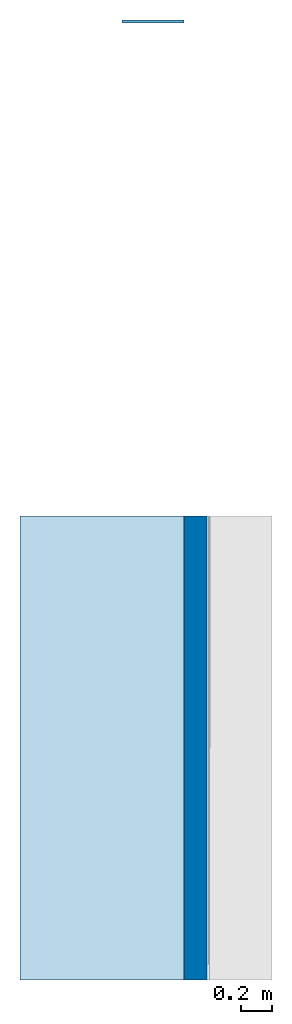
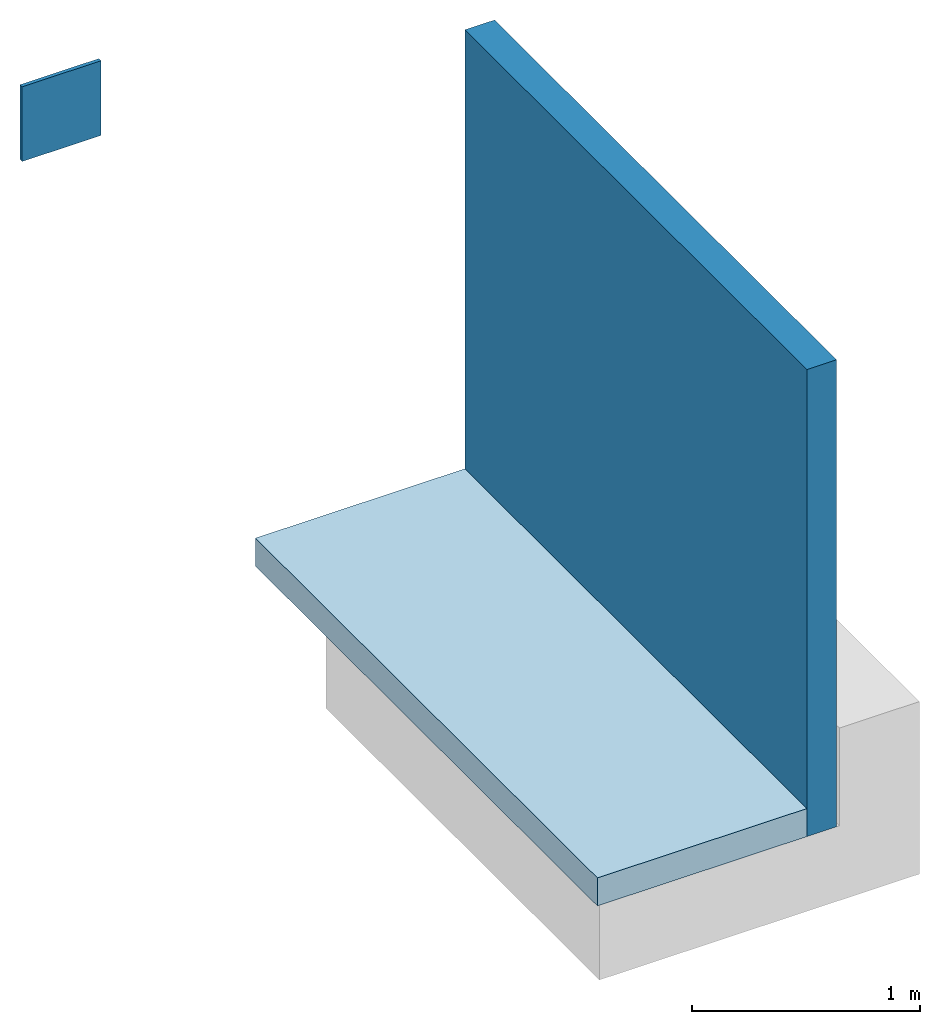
# One storey, part 1 of 2: 2 walls, 1 slab.
"""IFC2X3 building model written with IfcOpenShell, lengths in metres."""

from ifc_helpers import new_model, entity, si_unit, converted_unit, derived_unit, direction, frame, frame_2d, origin, place, context, subcontext, project, spatial, rectangle, extrude, material, layer, layer_set, layer_usage, type_object, element, save


model = new_model("IFC2X3")

# Units and contexts
model_context = context("Model", 3, precision=1e-05, world=origin(), true_north=direction((6.123031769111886e-17, 1.0)))
body_context = subcontext(model_context, "Body", "Model", "MODEL_VIEW")
ifc_project = project(units=[si_unit("LENGTHUNIT", "METRE"), si_unit("AREAUNIT", "SQUARE_METRE"), si_unit("VOLUMEUNIT", "CUBIC_METRE"), converted_unit("PLANEANGLEUNIT", "DEGREE", entity("IfcRatioMeasure", 0.017453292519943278), si_unit("PLANEANGLEUNIT", "RADIAN"), dimensions=[0, 0, 0, 0, 0, 0, 0]), si_unit("MASSUNIT", "GRAM", prefix="KILO"), derived_unit("MASSDENSITYUNIT", [(si_unit("MASSUNIT", "GRAM", prefix="KILO"), 1), (si_unit("LENGTHUNIT", "METRE"), -3)]), derived_unit("IONCONCENTRATIONUNIT", [(si_unit("MASSUNIT", "GRAM", prefix="KILO"), 1), (si_unit("LENGTHUNIT", "METRE"), -3)]), derived_unit("MOMENTOFINERTIAUNIT", [(si_unit("LENGTHUNIT", "METRE"), 4)]), si_unit("TIMEUNIT", "SECOND"), si_unit("FREQUENCYUNIT", "HERTZ"), si_unit("THERMODYNAMICTEMPERATUREUNIT", "DEGREE_CELSIUS"), derived_unit("THERMALTRANSMITTANCEUNIT", [(si_unit("MASSUNIT", "GRAM", prefix="KILO"), 1), (si_unit("THERMODYNAMICTEMPERATUREUNIT", "KELVIN"), -1), (si_unit("TIMEUNIT", "SECOND"), -3)]), derived_unit("THERMALCONDUCTANCEUNIT", [(si_unit("MASSUNIT", "GRAM", prefix="KILO"), 1), (si_unit("THERMODYNAMICTEMPERATUREUNIT", "KELVIN"), -1), (si_unit("TIMEUNIT", "SECOND"), -3), (si_unit("LENGTHUNIT", "METRE"), 1)]), derived_unit("VOLUMETRICFLOWRATEUNIT", [(si_unit("LENGTHUNIT", "METRE"), 3), (si_unit("TIMEUNIT", "SECOND"), -1)]), derived_unit("MASSFLOWRATEUNIT", [(si_unit("MASSUNIT", "GRAM", prefix="KILO"), 1), (si_unit("TIMEUNIT", "SECOND"), -1)]), derived_unit("ROTATIONALFREQUENCYUNIT", [(si_unit("TIMEUNIT", "SECOND"), -1)]), si_unit("ELECTRICCURRENTUNIT", "AMPERE"), si_unit("ELECTRICVOLTAGEUNIT", "VOLT"), si_unit("POWERUNIT", "WATT"), si_unit("FORCEUNIT", "NEWTON", prefix="KILO"), si_unit("ILLUMINANCEUNIT", "LUX"), si_unit("LUMINOUSFLUXUNIT", "LUMEN"), si_unit("LUMINOUSINTENSITYUNIT", "CANDELA"), derived_unit("USERDEFINED", [(si_unit("MASSUNIT", "GRAM", prefix="KILO"), -1), (si_unit("LENGTHUNIT", "METRE"), -2), (si_unit("TIMEUNIT", "SECOND"), 3), (si_unit("LUMINOUSFLUXUNIT", "LUMEN"), 1)]), derived_unit("USERDEFINED", [(si_unit("MASSUNIT", "GRAM", prefix="KILO"), 1), (si_unit("TIMEUNIT", "SECOND"), -3), (si_unit("LENGTHUNIT", "METRE"), 3), (si_unit("ELECTRICCURRENTUNIT", "AMPERE"), -2)]), derived_unit("SOUNDPOWERUNIT", [(si_unit("MASSUNIT", "GRAM", prefix="KILO"), 1), (si_unit("TIMEUNIT", "SECOND"), -3), (si_unit("LENGTHUNIT", "METRE"), 2)]), derived_unit("SOUNDPRESSUREUNIT", [(si_unit("MASSUNIT", "GRAM", prefix="KILO"), 1), (si_unit("LENGTHUNIT", "METRE"), -1), (si_unit("TIMEUNIT", "SECOND"), -2)]), derived_unit("LINEARVELOCITYUNIT", [(si_unit("LENGTHUNIT", "METRE"), 1), (si_unit("TIMEUNIT", "SECOND"), -1)]), si_unit("PRESSUREUNIT", "PASCAL"), derived_unit("USERDEFINED", [(si_unit("MASSUNIT", "GRAM", prefix="KILO"), 1), (si_unit("LENGTHUNIT", "METRE"), -2), (si_unit("TIMEUNIT", "SECOND"), -2)]), derived_unit("LINEARFORCEUNIT", [(si_unit("MASSUNIT", "GRAM", prefix="KILO"), 1), (si_unit("TIMEUNIT", "SECOND"), -2)]), derived_unit("PLANARFORCEUNIT", [(si_unit("MASSUNIT", "GRAM", prefix="KILO"), 1), (si_unit("LENGTHUNIT", "METRE"), -1), (si_unit("TIMEUNIT", "SECOND"), -2)]), derived_unit("SPECIFICHEATCAPACITYUNIT", [(si_unit("THERMODYNAMICTEMPERATUREUNIT", "KELVIN"), -1), (si_unit("LENGTHUNIT", "METRE"), 2), (si_unit("TIMEUNIT", "SECOND"), -2)]), derived_unit("HEATINGVALUEUNIT", [(si_unit("LENGTHUNIT", "METRE"), 2), (si_unit("TIMEUNIT", "SECOND"), -2)]), derived_unit("VAPORPERMEABILITYUNIT", [(si_unit("LENGTHUNIT", "METRE"), -1), (si_unit("TIMEUNIT", "SECOND"), 1)]), derived_unit("DYNAMICVISCOSITYUNIT", [(si_unit("MASSUNIT", "GRAM", prefix="KILO"), 1), (si_unit("TIMEUNIT", "SECOND"), -1), (si_unit("LENGTHUNIT", "METRE"), -1)]), derived_unit("THERMALEXPANSIONCOEFFICIENTUNIT", [(si_unit("THERMODYNAMICTEMPERATUREUNIT", "KELVIN"), -1)]), derived_unit("MODULUSOFELASTICITYUNIT", [(si_unit("MASSUNIT", "GRAM", prefix="KILO"), 1), (si_unit("LENGTHUNIT", "METRE"), -1), (si_unit("TIMEUNIT", "SECOND"), -2)]), derived_unit("ISOTHERMALMOISTURECAPACITYUNIT", [(si_unit("LENGTHUNIT", "METRE"), 3), (si_unit("MASSUNIT", "GRAM", prefix="KILO"), -1)]), derived_unit("MOISTUREDIFFUSIVITYUNIT", [(si_unit("TIMEUNIT", "SECOND"), -1), (si_unit("LENGTHUNIT", "METRE"), 2)])], contexts=[model_context])

# Site, building, storey
site_placement = place(None, origin())
site = spatial("IfcSite", under=ifc_project, at=site_placement, Name="Default", CompositionType="ELEMENT")
building_placement = place(site_placement, origin())
building = spatial("IfcBuilding", under=site, at=building_placement, CompositionType="ELEMENT")
storey_placement = place(building_placement, frame((0.0, 0.0, -0.0025237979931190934)))
storey = spatial("IfcBuildingStorey", under=building, at=storey_placement, Name="ARQ Térreo", CompositionType="ELEMENT", Elevation=-0.0025237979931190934)

# Slab
ifc_material_1 = material(Name="#concreto")
ifc_layer_1 = layer(ifc_material_1, 0.14999999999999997)
ifc_layer_set_1 = layer_set([ifc_layer_1], Name="Piso:Genérico 150 mm")
ifc_layer_usage_1 = layer_usage(ifc_layer_set_1, "AXIS3", "POSITIVE", 0.0)
slab_type = type_object("IfcSlabType", Name="Piso:Genérico 150 mm", PredefinedType="FLOOR", material=ifc_layer_set_1)
slab_placement = place(storey_placement, origin())
element("IfcSlab", 1, at=slab_placement, inside=storey, type_object=slab_type, material=ifc_layer_usage_1, Name="Piso:Genérico 150 mm", ObjectType="Piso:Genérico 150 mm", PredefinedType="FLOOR", context=body_context, shape_type="SweptSolid", body=[
    extrude(rectangle(XDim=3.0000000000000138, YDim=1.0608100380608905, at=frame_2d((0.0, -5.551115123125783e-17), x_axis=(1.0, 0.0))), frame((-1.0323754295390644, -1.3541299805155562, 0.14999999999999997), z_axis=(0.0, 0.0, -1.0), x_axis=(0.0, 1.0, 0.0)), (0.0, 0.0, 1.0), 0.14999999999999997),
])

# Walls
ifc_layer_2 = layer(ifc_material_1, 0.14999999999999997)
ifc_layer_set_2 = layer_set([ifc_layer_2], Name="Parede básica:Parede básica:Parede Concreto")
ifc_layer_usage_2 = layer_usage(ifc_layer_set_2, "AXIS2", "NEGATIVE", 0.07499999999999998)
wall_type_1 = type_object("IfcWallType", Name="Parede básica:Parede básica:Parede Concreto", PredefinedType="STANDARD", material=ifc_layer_set_2)
wall_1_placement = place(storey_placement, frame((-0.4269704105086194, 0.14587001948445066, 0.0), z_axis=(0.0, 0.0, 1.0), x_axis=(0.0, -1.0, 0.0)))
element("IfcWallStandardCase", 2, at=wall_1_placement, inside=storey, type_object=wall_type_1, material=ifc_layer_usage_2, Name="Parede básica:Parede Concreto", ObjectType="Parede básica:Parede Concreto", context=body_context, shape_type="SweptSolid", body=[
    extrude(rectangle(XDim=2.9999999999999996, YDim=0.15000000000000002, at=frame_2d((1.4999999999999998, 0.0), x_axis=(-1.0, 0.0))), origin(), (0.0, 0.0, 1.0), 2.4999999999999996),
])
ifc_material_2 = material(Name="#Geotextil")
ifc_layer_3 = layer(ifc_material_2, 0.003)
ifc_material_3 = material(Name="#Chapisco")
ifc_layer_4 = layer(ifc_material_3, 0.0009999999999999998)
ifc_material_4 = material(Name="#Premium Geotextil Poliéster")
ifc_layer_5 = layer(ifc_material_4, 0.003999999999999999)
ifc_material_5 = material(Name="#Primer")
ifc_layer_6 = layer(ifc_material_5, 0.0009999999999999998)
ifc_material_6 = material(Name="#argamassa")
ifc_layer_7 = layer(ifc_material_6, 0.01)
ifc_layer_set_3 = layer_set([ifc_layer_3, ifc_layer_4, ifc_layer_5, ifc_layer_6, ifc_layer_7], Name="Parede básica:IMPV_PGEOTEXTIL")
ifc_layer_usage_3 = layer_usage(ifc_layer_set_3, "AXIS2", "NEGATIVE", 0.009500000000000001)
wall_type_2 = type_object("IfcWallType", Name="Parede básica:IMPV_PGEOTEXTIL", PredefinedType="STANDARD", material=ifc_layer_set_3)
wall_2_placement = place(storey_placement, frame((-0.5019704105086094, 3.345870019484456, 0.0), z_axis=(0.0, 0.0, 1.0), x_axis=(-1.0, 0.0, 0.0)))
element("IfcWallStandardCase", 3, at=wall_2_placement, inside=storey, type_object=wall_type_2, material=ifc_layer_usage_3, Name="Parede básica:IMPV_VP7000", ObjectType="Parede básica:IMPV_VP7000", context=body_context, shape_type="SweptSolid", body=[
    extrude(rectangle(XDim=0.4, YDim=0.01900000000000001, at=frame_2d((0.2, -9.540979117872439e-18), x_axis=(-1.0, 0.0))), origin(), (0.0, 0.0, 1.0), 0.4),
])

save(model, "model.ifc")
